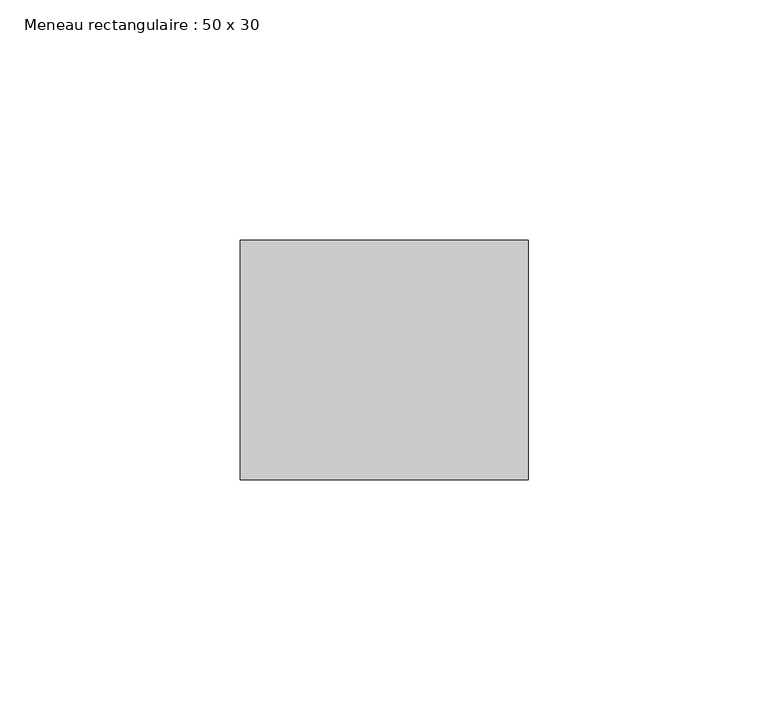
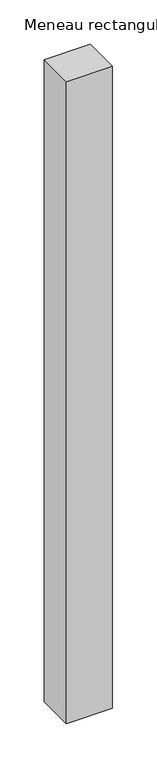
"""IFC4 building model written with IfcOpenShell, lengths in millimetres: member geometry, Meneau rectangulaire : 50 x 30."""

from ifc_helpers import new_model, si_unit, frame, origin, place, context, project, spatial, polyline, outline, extrude, source, transform, mapped, element, save


def meneau_rectangulaire_50_x_30_5d6a4cee(model_context):
    return source(origin(), model_context, "Body", "SweptSolid", [
        extrude(outline(polyline([(30.0, 0.0), (30.0, -50.0), (-30.0, -50.0), (-30.0, 0.0), (30.0, 0.0)])), frame((0.0, 0.0, -884.7450745), z_axis=(0.0, 0.0, 1.0), x_axis=(1.0, 0.0, 0.0)), (0.0, 0.0, 1.0), 884.7450745),
    ])


if __name__ == "__main__":
    model = new_model("IFC4")
    model_context = context("Model", 3, world=origin())
    ifc_project = project(units=[si_unit("LENGTHUNIT", "METRE", prefix="MILLI")], contexts=[model_context])
    site = spatial("IfcSite", under=ifc_project)
    building = spatial("IfcBuilding", under=site)
    placement = place(None, origin())
    meneau_rectangulaire_50_x_30_shape = meneau_rectangulaire_50_x_30_5d6a4cee(model_context)
    element("IfcMember", 1, ObjectType="Meneau rectangulaire : 50 x 30", at=placement, inside=building, context=model_context, shape_type="MappedRepresentation", body=[
        mapped(meneau_rectangulaire_50_x_30_shape, transform((0.0, 0.0, 0.0), x_axis=(1.0, 0.0, 0.0), y_axis=(0.0, 1.0, 0.0), z_axis=(0.0, 0.0, 1.0))),
    ])
    save(model, "model.ifc")
